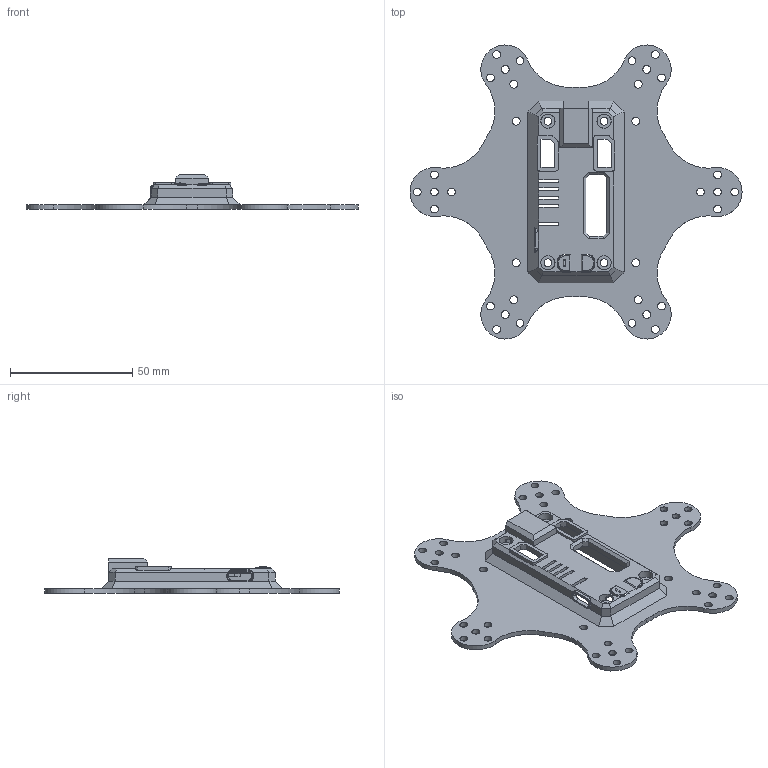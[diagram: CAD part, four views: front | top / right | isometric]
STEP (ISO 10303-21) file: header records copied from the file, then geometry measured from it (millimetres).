
FILE_DESCRIPTION(/* description */ (''),/* implementation_level */ '2;1');
FILE_NAME(/* name */ 'E:/云同步/我的坚果云/项目/SERVO DRIVER WITH ESP32/模型/D1 v2.step',/* time_stamp */ '2022-01-21T19:20:59+08:00',/* author */ (''),/* organization */ (''),/* preprocessor_version */ 'ST-DEVELOPER v18.1',/* originating_system */ 'Autodesk Translation Framework v10.10.0.1391',/* authorisation */ '');
FILE_SCHEMA (('AUTOMOTIVE_DESIGN { 1 0 10303 214 3 1 1 }'));
Length unit declared in the file: millimetre
Products named in the file (1): D1
Bounding box: 136 x 120.46 x 14.3 mm (x, y, z)
Volume: 19012.8 mm3; surface area: 21943 mm2
Topology: 1 solids, 1 shells, 405 faces, 1164 edges, 744 vertices
Faces by surface type: plane 227, cylinder 126, bspline 27, cone 23, sphere 2
Full cylindrical faces by diameter (mm): 3.2 x38, 5.8 x4
Entity records: 13933 total; most frequent: CARTESIAN_POINT 3119, ORIENTED_EDGE 2326, DIRECTION 2146, EDGE_CURVE 1163, LINE 770, VECTOR 770, VERTEX_POINT 744, AXIS2_PLACEMENT_3D 688
